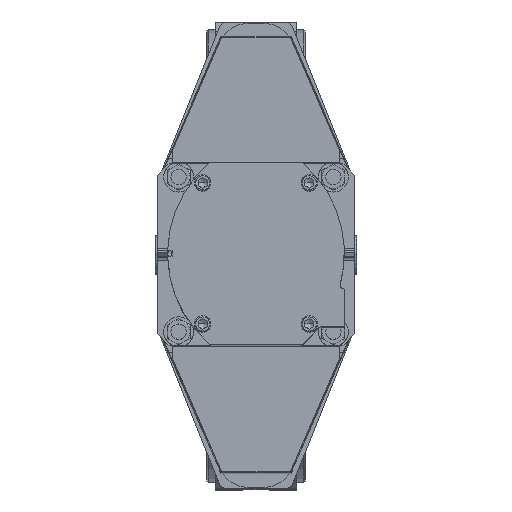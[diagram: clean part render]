
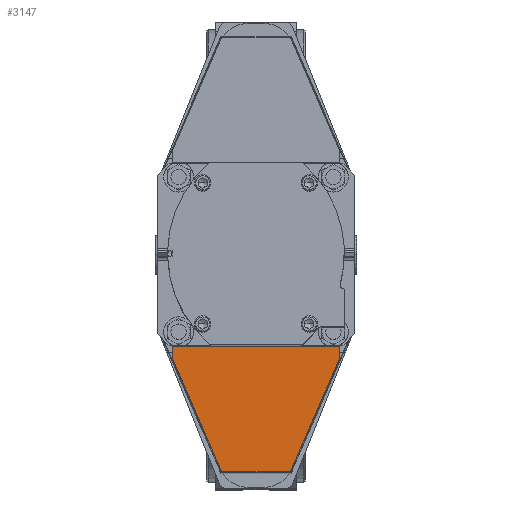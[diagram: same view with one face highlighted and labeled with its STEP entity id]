
A CAD part, top view. The second image highlights one B-rep face of the part: STEP entity #3147.
In plain terms, the highlighted planar face has unit normal (0, 0, 1).
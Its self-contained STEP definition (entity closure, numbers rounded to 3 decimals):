
#3147=ADVANCED_FACE('',(#9562),#9563,.F.);
#9562=FACE_OUTER_BOUND('',#19414,.T.);
#9563=PLANE('',#19415);
#19414=EDGE_LOOP('',(#43612,#43613,#43614,#43615,#43616,#43617));
#19415=AXIS2_PLACEMENT_3D('',#43618,#43619,#43620);
#43612=ORIENTED_EDGE('',*,*,#54713,.T.);
#43613=ORIENTED_EDGE('',*,*,#54719,.F.);
#43614=ORIENTED_EDGE('',*,*,#54738,.F.);
#43615=ORIENTED_EDGE('',*,*,#54736,.T.);
#43616=ORIENTED_EDGE('',*,*,#54724,.T.);
#43617=ORIENTED_EDGE('',*,*,#54733,.F.);
#43618=CARTESIAN_POINT('',(-76.216,-200.061,1141.954));
#43619=DIRECTION('',(0.,0.,-1.));
#43620=DIRECTION('',(0.,-1.,0.));
#54713=EDGE_CURVE('',#68333,#68334,#68335,.T.);
#54719=EDGE_CURVE('',#68343,#68334,#68345,.T.);
#54724=EDGE_CURVE('',#68353,#68354,#68355,.T.);
#54733=EDGE_CURVE('',#68333,#68354,#68368,.T.);
#54736=EDGE_CURVE('',#68371,#68353,#68372,.T.);
#54738=EDGE_CURVE('',#68371,#68343,#68374,.T.);
#68333=VERTEX_POINT('',#92363);
#68334=VERTEX_POINT('',#92364);
#68335=LINE('',#92365,#92366);
#68343=VERTEX_POINT('',#92378);
#68345=LINE('',#92381,#92382);
#68353=VERTEX_POINT('',#92394);
#68354=VERTEX_POINT('',#92395);
#68355=LINE('',#92396,#92397);
#68368=LINE('',#92414,#92415);
#68371=VERTEX_POINT('',#92420);
#68372=LINE('',#92421,#92422);
#68374=LINE('',#92425,#92426);
#92363=CARTESIAN_POINT('',(44.432,-281.061,1141.954));
#92364=CARTESIAN_POINT('',(108.,-134.76,1141.954));
#92365=CARTESIAN_POINT('',(69.805,-222.666,1141.954));
#92366=VECTOR('',#108030,10.);
#92378=CARTESIAN_POINT('',(108.,-119.061,1141.954));
#92381=CARTESIAN_POINT('',(108.,-281.061,1141.954));
#92382=VECTOR('',#108036,10.);
#92394=CARTESIAN_POINT('',(-108.,-134.76,1141.954));
#92395=CARTESIAN_POINT('',(-44.432,-281.061,1141.954));
#92396=CARTESIAN_POINT('',(-81.908,-194.81,1141.954));
#92397=VECTOR('',#108041,10.);
#92414=CARTESIAN_POINT('',(44.432,-281.061,1141.954));
#92415=VECTOR('',#108058,10.);
#92420=CARTESIAN_POINT('',(-108.,-119.061,1141.954));
#92421=CARTESIAN_POINT('',(-108.,-281.061,1141.954));
#92422=VECTOR('',#108061,10.);
#92425=CARTESIAN_POINT('',(108.,-119.061,1141.954));
#92426=VECTOR('',#108063,10.);
#108030=DIRECTION('',(0.399,0.917,0.));
#108036=DIRECTION('',(0.,-1.,0.));
#108041=DIRECTION('',(0.399,-0.917,0.));
#108058=DIRECTION('',(-1.,0.,0.));
#108061=DIRECTION('',(0.,-1.,0.));
#108063=DIRECTION('',(1.,0.,0.));
